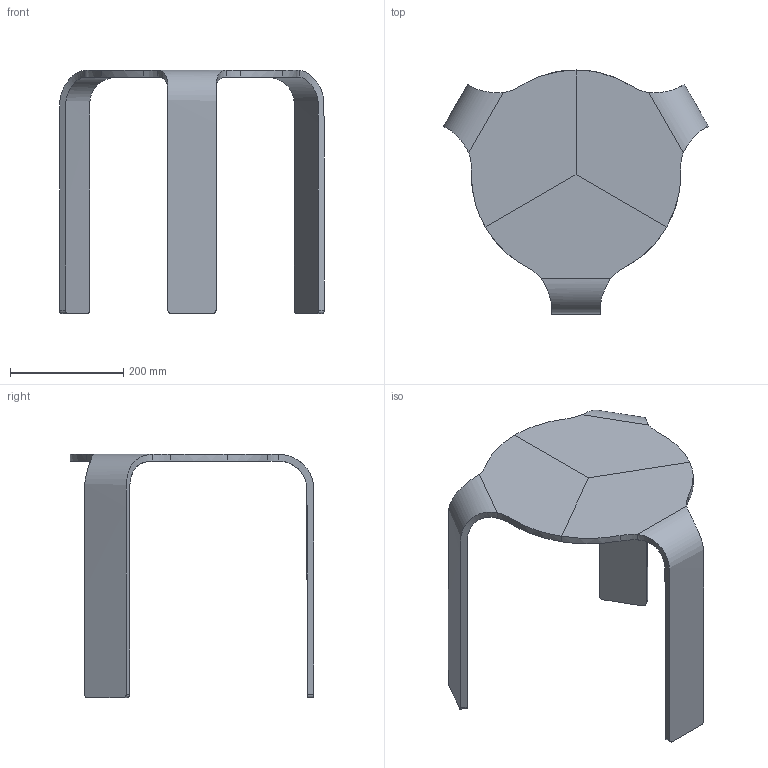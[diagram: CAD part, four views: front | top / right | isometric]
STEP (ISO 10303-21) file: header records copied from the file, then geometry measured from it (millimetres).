
FILE_DESCRIPTION(/* description */ (''),/* implementation_level */ '2;1');
FILE_NAME(/* name */ '010 - Omaggio Alvar Aalto Tris H43',/* time_stamp */ '2010-11-04T14:48:07+01:00',/* author */ (''),/* organization */ (''),/* preprocessor_version */ 'ST-DEVELOPER v10',/* originating_system */ '',/* authorisation */ '');
FILE_SCHEMA (('CONFIG_CONTROL_DESIGN'));
Length unit declared in the file: centimetre
Products named in the file (1): 1
Bounding box: 467.72 x 430.5 x 429.96 mm (x, y, z)
Volume: 2670859.2 mm3; surface area: 499789.9 mm2
Topology: 1 solids, 1 shells, 39 faces, 93 edges, 56 vertices
Faces by surface type: bspline 30, plane 9
Entity records: 2166 total; most frequent: CARTESIAN_POINT 1509, ORIENTED_EDGE 186, EDGE_CURVE 93, B_SPLINE_CURVE_WITH_KNOTS 65, VERTEX_POINT 56, ADVANCED_FACE 39, FACE_OUTER_BOUND 39, EDGE_LOOP 39
